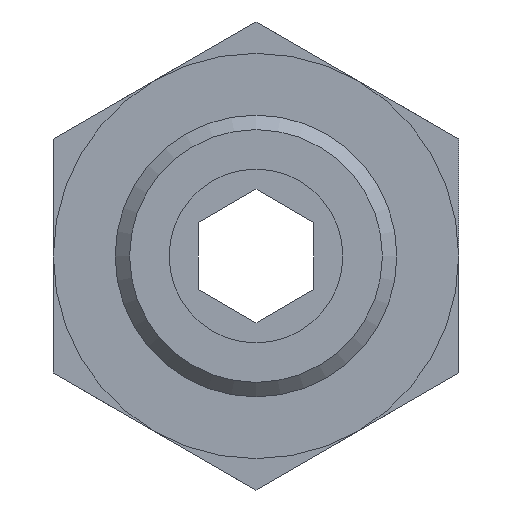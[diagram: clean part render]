
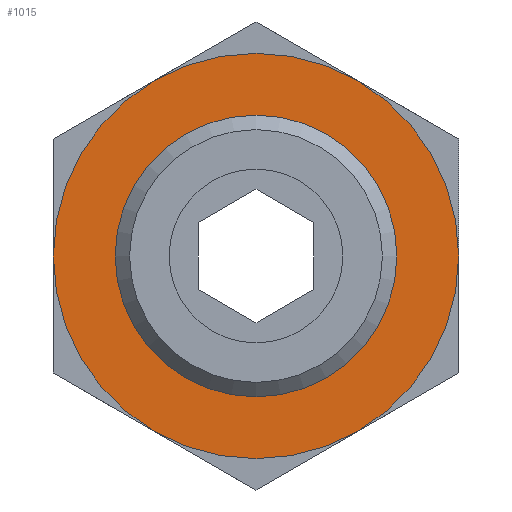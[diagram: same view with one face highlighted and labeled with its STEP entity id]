
A CAD part, front view. The second image highlights one B-rep face of the part: STEP entity #1015.
In plain terms, the highlighted planar face has unit normal (0, -1, 0).
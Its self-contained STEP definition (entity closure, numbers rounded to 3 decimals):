
#377=CARTESIAN_POINT('',(4.865,-19.5,0.0));
#378=VERTEX_POINT('',#377);
#379=CARTESIAN_POINT('',(0.0,-19.5,0.0));
#380=DIRECTION('',(0.0,-1.0,0.0));
#381=DIRECTION('',(1.0,0.0,0.0));
#382=AXIS2_PLACEMENT_3D('',#379,#380,#381);
#383=CIRCLE('',#382,4.865);
#384=EDGE_CURVE('',#378,#378,#383,.T.);
#685=CARTESIAN_POINT('',(3.5,-19.5,-6.062));
#686=VERTEX_POINT('',#685);
#687=CARTESIAN_POINT('',(0.0,-19.5,0.0));
#688=DIRECTION('',(0.0,-1.0,0.0));
#689=DIRECTION('',(1.0,0.0,0.0));
#690=AXIS2_PLACEMENT_3D('',#687,#688,#689);
#691=CIRCLE('',#690,7.);
#692=EDGE_CURVE('',#686,#686,#691,.T.);
#1004=CARTESIAN_POINT('',(5.933,-19.5,0.0));
#1005=DIRECTION('',(0.0,-1.0,0.0));
#1006=DIRECTION('',(0.0,0.0,-1.0));
#1007=AXIS2_PLACEMENT_3D('',#1004,#1005,#1006);
#1008=PLANE('',#1007);
#1009=ORIENTED_EDGE('',*,*,#692,.T.);
#1010=EDGE_LOOP('',(#1009));
#1011=FACE_OUTER_BOUND('',#1010,.T.);
#1012=ORIENTED_EDGE('',*,*,#384,.F.);
#1013=EDGE_LOOP('',(#1012));
#1014=FACE_BOUND('',#1013,.T.);
#1015=ADVANCED_FACE('',(#1011,#1014),#1008,.T.);
